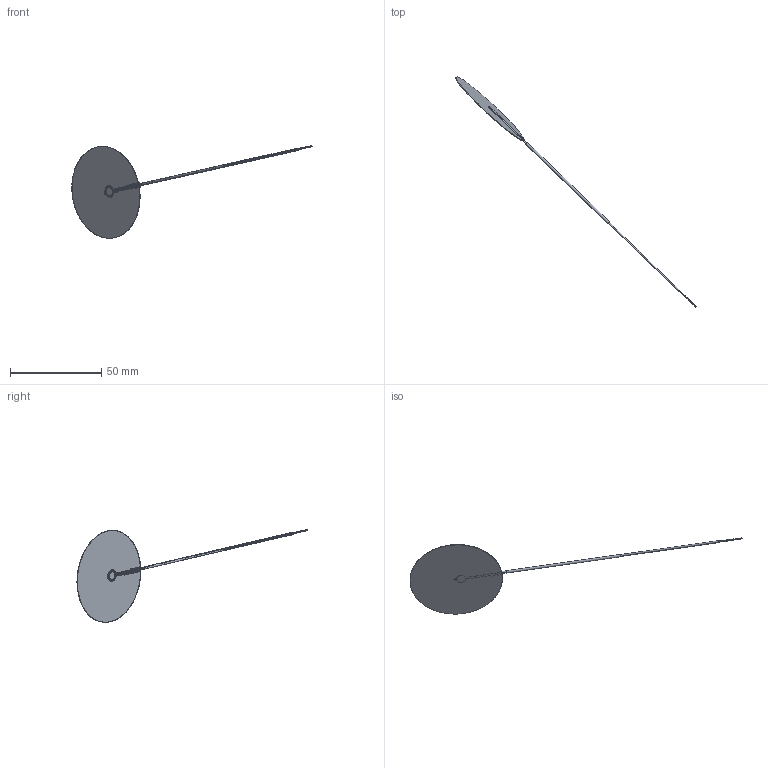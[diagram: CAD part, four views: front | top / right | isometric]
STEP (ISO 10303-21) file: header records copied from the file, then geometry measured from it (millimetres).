
FILE_DESCRIPTION(/* description */ (''),/* implementation_level */ '2;1');
FILE_NAME(/* name */ 'C:\Users\Justin\Documents\CAD Drawings\The Sensor Connection\3D\SSP\SSP-TC-072-XX-TF-K-N\SSP-TC-072-20-TF-K-N\SSP-TC-072-20-TF-K-N.stp',/* time_stamp */ '2018-02-08T14:06:31-05:00',/* author */ ('Justin'),/* organization */ (''),/* preprocessor_version */ 'ST-DEVELOPER v17',/* originating_system */ 'Autodesk Inventor 2018',/* authorisation */ '');
FILE_SCHEMA (('AUTOMOTIVE_DESIGN { 1 0 10303 214 3 1 1 }'));
Length unit declared in the file: inch
Products named in the file (5): SSP-TC-072-20-TF-K-N; Kapton Tape 2 in; Junction; Fiberglass Back 2 in; Cable Insulation 2in
Assembly tree (4 placements, depth 2):
  SSP-TC-072-20-TF-K-N
    Kapton Tape 2 in
    Junction
    Fiberglass Back 2 in
    Cable Insulation 2in
Bounding box: 131.9 x 126.34 x 50.95 mm (x, y, z)
Volume: 697.5 mm3; surface area: 10220.3 mm2
Topology: 12 solids, 12 shells, 100 faces, 228 edges, 152 vertices
Faces by surface type: plane 36, bspline 29, cylinder 23, torus 12
Full cylindrical faces by diameter (mm): 0.294 x2, 1.143 x1, 1.346 x1, 50.8 x2
Entity records: 6214 total; most frequent: CARTESIAN_POINT 3911, ORIENTED_EDGE 456, DIRECTION 361, EDGE_CURVE 228, VERTEX_POINT 152, AXIS2_PLACEMENT_3D 146, EDGE_LOOP 108, FACE_OUTER_BOUND 100
